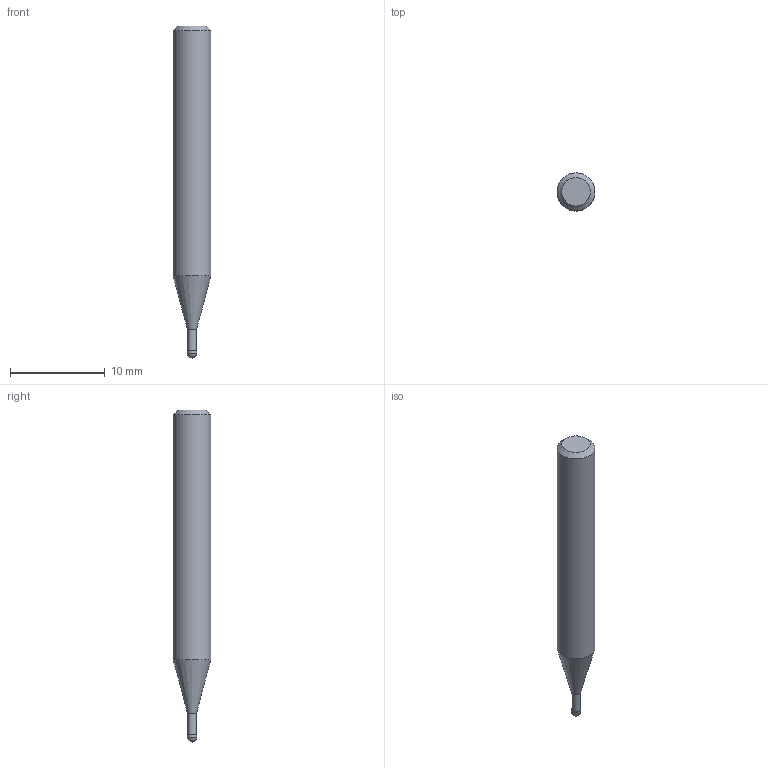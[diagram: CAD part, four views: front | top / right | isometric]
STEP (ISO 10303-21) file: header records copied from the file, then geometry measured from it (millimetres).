
FILE_DESCRIPTION((''),'2;1');
FILE_NAME('C:\Users\nsx150\AppData\Local\Temp\Mastercam 2021\QT8KEW0Y7J\TEMP.step','2021-04-23T11:21:05',(''),(''),'STEP Write','Mastercam 2021 ... CNC Software, Inc.','');
FILE_SCHEMA(('AUTOMOTIVE_DESIGN'));
Length unit declared in the file: millimetre
Products named in the file (1): None
Bounding box: 4 x 4 x 35 mm (x, y, z)
Volume: 362.1 mm3; surface area: 395.5 mm2
Topology: 2 solids, 2 shells, 9 faces, 14 edges, 8 vertices
Faces by surface type: plane 3, cylinder 3, cone 2, sphere 1
Full cylindrical faces by diameter (mm): 0.95 x1, 1 x1, 4 x1
Entity records: 211 total; most frequent: DIRECTION 36, CARTESIAN_POINT 25, AXIS2_PLACEMENT_3D 18, ORIENTED_EDGE 14, EDGE_LOOP 14, STYLED_ITEM 12, ADVANCED_FACE 9, FACE_BOUND 8
